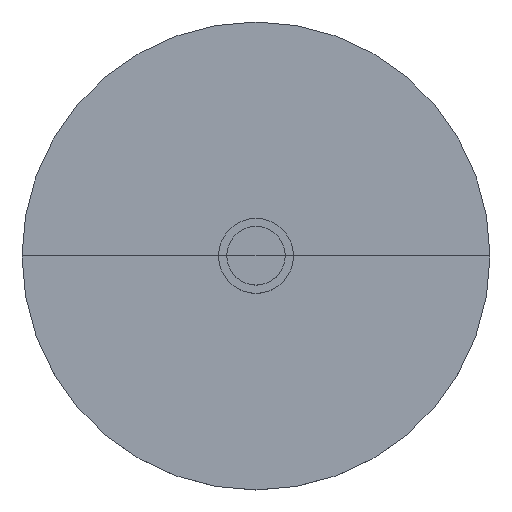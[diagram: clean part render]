
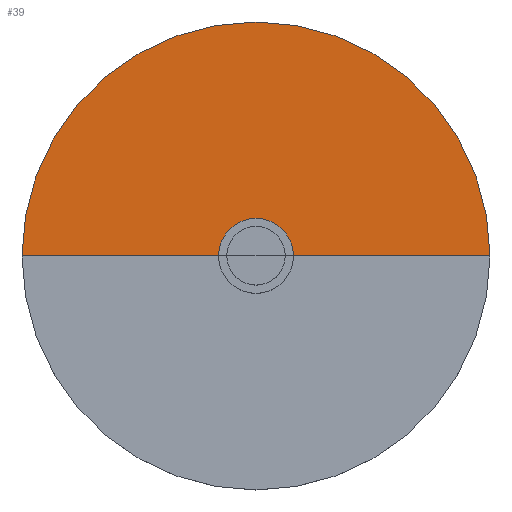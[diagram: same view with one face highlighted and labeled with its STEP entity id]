
A CAD part, top view. The second image highlights one B-rep face of the part: STEP entity #39.
In plain terms, the highlighted planar face has unit normal (0, 0, 1).
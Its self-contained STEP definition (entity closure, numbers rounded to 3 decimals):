
#39 = ADVANCED_FACE('',(#40),#59,.F.);
#40 = FACE_BOUND('',#41,.T.);
#41 = EDGE_LOOP('',(#42,#53));
#42 = ORIENTED_EDGE('',*,*,#43,.T.);
#43 = EDGE_CURVE('',#44,#46,#48,.T.);
#44 = VERTEX_POINT('',#45);
#45 = CARTESIAN_POINT('',(100.,0.,
    -49.2));
#46 = VERTEX_POINT('',#47);
#47 = CARTESIAN_POINT('',(-100.,0.,-49.2));
#48 = CIRCLE('',#49,100.);
#49 = AXIS2_PLACEMENT_3D('',#50,#51,#52);
#50 = CARTESIAN_POINT('',(0.,0.,-49.2));
#51 = DIRECTION('',(0.,0.,1.));
#52 = DIRECTION('',(-1.,0.,0.));
#53 = ORIENTED_EDGE('',*,*,#54,.T.);
#54 = EDGE_CURVE('',#46,#44,#55,.T.);
#55 = LINE('',#56,#57);
#56 = CARTESIAN_POINT('',(-100.,0.,-49.2));
#57 = VECTOR('',#58,1.);
#58 = DIRECTION('',(1.,0.,0.));
#59 = PLANE('',#60);
#60 = AXIS2_PLACEMENT_3D('',#61,#62,#63);
#61 = CARTESIAN_POINT('',(0.,0.,-49.2));
#62 = DIRECTION('',(0.,0.,-1.));
#63 = DIRECTION('',(-1.,0.,0.));
